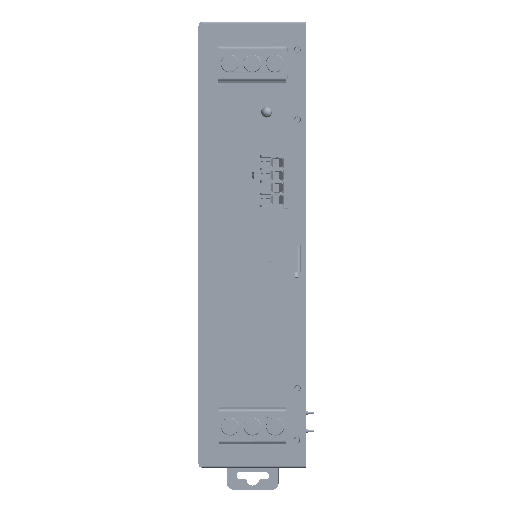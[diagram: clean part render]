
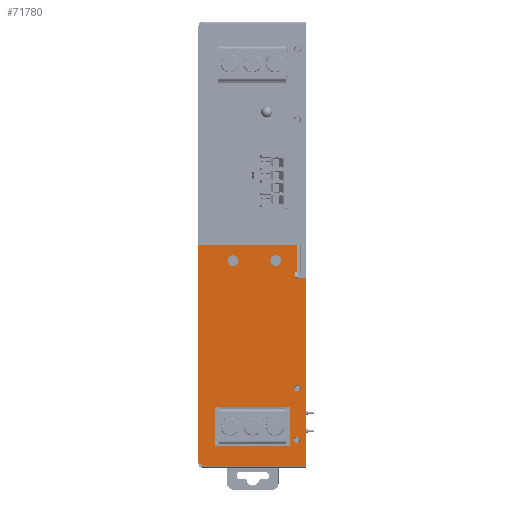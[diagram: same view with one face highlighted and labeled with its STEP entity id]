
A CAD part, left-side view. The second image highlights one B-rep face of the part: STEP entity #71780.
In plain terms, the highlighted planar face has unit normal (-1, 0, 0).
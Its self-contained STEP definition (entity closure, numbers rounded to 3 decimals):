
#51080=CARTESIAN_POINT('',(-27.647,60.886,0.));
#51090=DIRECTION('',(0.,0.,-1.));
#51100=VECTOR('',#51090,1.);
#51110=LINE('',#51080,#51100);
#57680=CARTESIAN_POINT('',(-27.647,0.,-43.827));
#57690=DIRECTION('',(0.,1.,0.));
#57700=VECTOR('',#57690,1.);
#57710=LINE('',#57680,#57700);
#57720=CARTESIAN_POINT('',(-27.647,36.235,
-43.827));
#57730=VERTEX_POINT('',#57720);
#57740=CARTESIAN_POINT('',(-27.647,57.285,
-43.827));
#57750=VERTEX_POINT('',#57740);
#57760=EDGE_CURVE('',#57730,#57750,#57710,.T.);
#64660=CARTESIAN_POINT('',(-27.647,31.686,
3.5));
#64670=VERTEX_POINT('',#64660);
#65160=CARTESIAN_POINT('',(-27.647,31.686,
-49.4));
#65170=VERTEX_POINT('',#65160);
#65200=CARTESIAN_POINT('',(-27.647,31.686,0.));
#65210=DIRECTION('',(0.,0.,-1.));
#65220=VECTOR('',#65210,1.);
#65230=LINE('',#65200,#65220);
#65240=EDGE_CURVE('',#64670,#65170,#65230,.T.);
#65600=CARTESIAN_POINT('',(-27.647,31.986,92.23)
);
#65610=DIRECTION('',(-1.,0.,0.));
#65620=DIRECTION('',(0.,0.,1.));
#65630=AXIS2_PLACEMENT_3D('',#65600,#65610,#65620);
#65640=PLANE('',#65630);
#67560=CARTESIAN_POINT('',(-27.647,61.886,
-48.4));
#67570=DIRECTION('',(0.,0.,1.));
#67580=VECTOR('',#67570,1.);
#67590=LINE('',#67560,#67580);
#69150=CARTESIAN_POINT('',(-27.647,36.235,
-32.827));
#69160=VERTEX_POINT('',#69150);
#69330=CARTESIAN_POINT('',(-27.647,57.285,
-32.827));
#69340=VERTEX_POINT('',#69330);
#69370=CARTESIAN_POINT('',(-27.647,0.,-32.827));
#69380=DIRECTION('',(0.,1.,0.));
#69390=VECTOR('',#69380,1.);
#69400=LINE('',#69370,#69390);
#69410=EDGE_CURVE('',#69160,#69340,#69400,.T.);
#70280=CARTESIAN_POINT('',(-27.647,52.186,
8.28));
#70290=DIRECTION('',(1.,0.,0.));
#70300=DIRECTION('',(0.,0.,1.));
#70310=AXIS2_PLACEMENT_3D('',#70280,#70290,#70300);
#70320=CIRCLE('',#70310,1.5);
#70330=CARTESIAN_POINT('',(-27.647,52.186,
9.78));
#70340=VERTEX_POINT('',#70330);
#70350=CARTESIAN_POINT('',(-27.647,52.186,
6.78));
#70360=VERTEX_POINT('',#70350);
#70370=EDGE_CURVE('',#70340,#70360,#70320,.T.);
#70380=ORIENTED_EDGE('',*,*,#70370,.T.);
#70390=EDGE_CURVE('',#70360,#70340,#70320,.T.);
#70400=ORIENTED_EDGE('',*,*,#70390,.T.);
#70410=EDGE_LOOP('',(#70400,#70380));
#70420=FACE_BOUND('',#70410,.T.);
#70430=CARTESIAN_POINT('',(-27.647,36.235,0.));
#70440=DIRECTION('',(0.,0.,-1.));
#70450=VECTOR('',#70440,1.);
#70460=LINE('',#70430,#70450);
#70470=EDGE_CURVE('',#69160,#57730,#70460,.T.);
#70480=ORIENTED_EDGE('',*,*,#70470,.T.);
#70490=ORIENTED_EDGE('',*,*,#69410,.F.);
#70500=CARTESIAN_POINT('',(-27.647,57.285,0.));
#70510=DIRECTION('',(0.,0.,1.));
#70520=VECTOR('',#70510,1.);
#70530=LINE('',#70500,#70520);
#70540=EDGE_CURVE('',#57750,#69340,#70530,.T.);
#70550=ORIENTED_EDGE('',*,*,#70540,.T.);
#70560=ORIENTED_EDGE('',*,*,#57760,.T.);
#70570=EDGE_LOOP('',(#70560,#70550,#70490,#70480));
#70580=FACE_BOUND('',#70570,.T.);
#70590=CARTESIAN_POINT('',(-27.647,40.186,
8.28));
#70600=DIRECTION('',(1.,0.,0.));
#70610=DIRECTION('',(0.,0.,1.));
#70620=AXIS2_PLACEMENT_3D('',#70590,#70600,#70610);
#70630=CIRCLE('',#70620,1.5);
#70640=CARTESIAN_POINT('',(-27.647,40.186,
9.78));
#70650=VERTEX_POINT('',#70640);
#70660=CARTESIAN_POINT('',(-27.647,40.186,
6.78));
#70670=VERTEX_POINT('',#70660);
#70680=EDGE_CURVE('',#70650,#70670,#70630,.T.);
#70690=ORIENTED_EDGE('',*,*,#70680,.T.);
#70700=EDGE_CURVE('',#70670,#70650,#70630,.T.);
#70710=ORIENTED_EDGE('',*,*,#70700,.T.);
#70720=EDGE_LOOP('',(#70710,#70690));
#70730=FACE_BOUND('',#70720,.T.);
#70740=CARTESIAN_POINT('',(-27.647,34.086,-27.574
));
#70750=DIRECTION('',(1.,0.,0.));
#70760=DIRECTION('',(0.,0.,-1.));
#70770=AXIS2_PLACEMENT_3D('',#70740,#70750,#70760);
#70780=CIRCLE('',#70770,0.902);
#70790=CARTESIAN_POINT('',(-27.647,34.086,-26.672
));
#70800=VERTEX_POINT('',#70790);
#70810=CARTESIAN_POINT('',(-27.647,34.086,-28.475
));
#70820=VERTEX_POINT('',#70810);
#70830=EDGE_CURVE('',#70800,#70820,#70780,.T.);
#70840=ORIENTED_EDGE('',*,*,#70830,.T.);
#70850=EDGE_CURVE('',#70820,#70800,#70780,.T.);
#70860=ORIENTED_EDGE('',*,*,#70850,.T.);
#70870=EDGE_LOOP('',(#70860,#70840));
#70880=FACE_BOUND('',#70870,.T.);
#70890=CARTESIAN_POINT('',(-27.647,34.286,-42.1)
);
#70900=DIRECTION('',(1.,0.,0.));
#70910=DIRECTION('',(0.,-1.,0.));
#70920=AXIS2_PLACEMENT_3D('',#70890,#70900,#70910);
#70930=CIRCLE('',#70920,0.921);
#70940=CARTESIAN_POINT('',(-27.647,35.207,
-42.1));
#70950=VERTEX_POINT('',#70940);
#70960=CARTESIAN_POINT('',(-27.647,33.365,
-42.1));
#70970=VERTEX_POINT('',#70960);
#70980=EDGE_CURVE('',#70950,#70970,#70930,.T.);
#70990=ORIENTED_EDGE('',*,*,#70980,.T.);
#71000=EDGE_CURVE('',#70970,#70950,#70930,.T.);
#71010=ORIENTED_EDGE('',*,*,#71000,.T.);
#71020=EDGE_LOOP('',(#71010,#70990));
#71030=FACE_BOUND('',#71020,.T.);
#71040=CARTESIAN_POINT('',(-27.647,8.,12.6));
#71050=DIRECTION('',(0.,1.,0.));
#71060=VECTOR('',#71050,1.);
#71070=LINE('',#71040,#71060);
#71080=CARTESIAN_POINT('',(-27.647,34.186,
12.6));
#71090=VERTEX_POINT('',#71080);
#71100=CARTESIAN_POINT('',(-27.647,61.886,
12.6));
#71110=VERTEX_POINT('',#71100);
#71120=EDGE_CURVE('',#71090,#71110,#71070,.T.);
#71130=ORIENTED_EDGE('',*,*,#71120,.T.);
#71140=CARTESIAN_POINT('',(-27.647,34.186,0.));
#71150=DIRECTION('',(0.,0.,1.));
#71160=VECTOR('',#71150,1.);
#71170=LINE('',#71140,#71160);
#71180=CARTESIAN_POINT('',(-27.647,34.186,
5.2));
#71190=VERTEX_POINT('',#71180);
#71200=EDGE_CURVE('',#71190,#71090,#71170,.T.);
#71210=ORIENTED_EDGE('',*,*,#71200,.T.);
#71220=CARTESIAN_POINT('',(-27.647,0.,5.2));
#71230=DIRECTION('',(0.,-1.,0.));
#71240=VECTOR('',#71230,1.);
#71250=LINE('',#71220,#71240);
#71260=CARTESIAN_POINT('',(-27.647,34.886,
5.2));
#71270=VERTEX_POINT('',#71260);
#71280=EDGE_CURVE('',#71270,#71190,#71250,.T.);
#71290=ORIENTED_EDGE('',*,*,#71280,.T.);
#71300=CARTESIAN_POINT('',(-27.647,34.886,0.));
#71310=DIRECTION('',(0.,0.,1.));
#71320=VECTOR('',#71310,1.);
#71330=LINE('',#71300,#71320);
#71340=CARTESIAN_POINT('',(-27.647,34.886,
3.5));
#71350=VERTEX_POINT('',#71340);
#71360=EDGE_CURVE('',#71350,#71270,#71330,.T.);
#71370=ORIENTED_EDGE('',*,*,#71360,.T.);
#71380=CARTESIAN_POINT('',(-27.647,0.,3.5));
#71390=DIRECTION('',(0.,1.,0.));
#71400=VECTOR('',#71390,1.);
#71410=LINE('',#71380,#71400);
#71420=EDGE_CURVE('',#64670,#71350,#71410,.T.);
#71430=ORIENTED_EDGE('',*,*,#71420,.T.);
#71440=ORIENTED_EDGE('',*,*,#65240,.F.);
#71450=CARTESIAN_POINT('',(-27.647,0.,-49.4));
#71460=DIRECTION('',(0.,1.,0.));
#71470=VECTOR('',#71460,1.);
#71480=LINE('',#71450,#71470);
#71490=CARTESIAN_POINT('',(-27.647,60.886,
-49.4));
#71500=VERTEX_POINT('',#71490);
#71510=EDGE_CURVE('',#65170,#71500,#71480,.T.);
#71520=ORIENTED_EDGE('',*,*,#71510,.F.);
#71530=CARTESIAN_POINT('',(-27.647,60.886,-48.9)
);
#71540=VERTEX_POINT('',#71530);
#71550=EDGE_CURVE('',#71540,#71500,#51110,.T.);
#71560=ORIENTED_EDGE('',*,*,#71550,.T.);
#71570=CARTESIAN_POINT('',(-27.647,60.886,-48.9)
);
#71580=DIRECTION('',(0.,1.,0.));
#71590=VECTOR('',#71580,1.);
#71600=LINE('',#71570,#71590);
#71610=CARTESIAN_POINT('',(-27.647,61.386,
-48.9));
#71620=VERTEX_POINT('',#71610);
#71630=EDGE_CURVE('',#71540,#71620,#71600,.T.);
#71640=ORIENTED_EDGE('',*,*,#71630,.F.);
#71650=CARTESIAN_POINT('',(-27.647,61.386,
-48.4));
#71660=DIRECTION('',(1.,0.,0.));
#71670=DIRECTION('',(0.,-1.,0.));
#71680=AXIS2_PLACEMENT_3D('',#71650,#71660,#71670);
#71690=CIRCLE('',#71680,0.5);
#71700=CARTESIAN_POINT('',(-27.647,61.886,
-48.4));
#71710=VERTEX_POINT('',#71700);
#71720=EDGE_CURVE('',#71620,#71710,#71690,.T.);
#71730=ORIENTED_EDGE('',*,*,#71720,.F.);
#71740=EDGE_CURVE('',#71710,#71110,#67590,.T.);
#71750=ORIENTED_EDGE('',*,*,#71740,.F.);
#71760=EDGE_LOOP('',(#71750,#71730,#71640,#71560,#71520,#71440,#71430,
#71370,#71290,#71210,#71130));
#71770=FACE_OUTER_BOUND('',#71760,.T.);
#71780=ADVANCED_FACE('',(#70420,#70580,#70730,#70880,#71030,#71770),
#65640,.T.);
